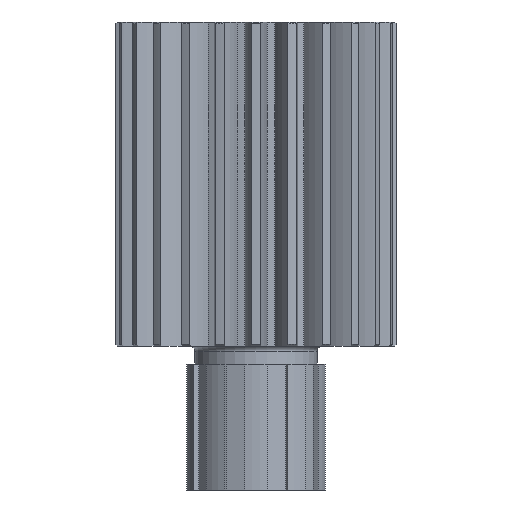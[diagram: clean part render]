
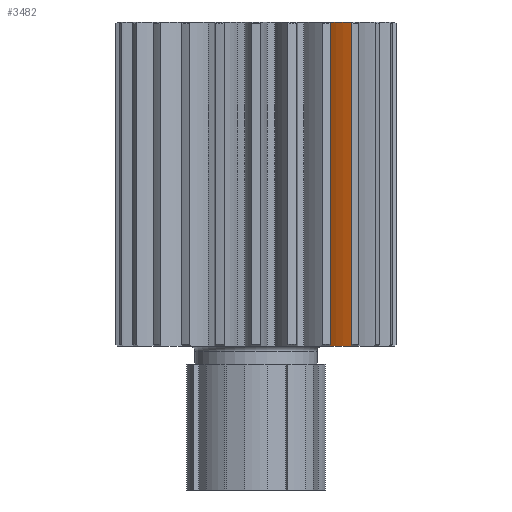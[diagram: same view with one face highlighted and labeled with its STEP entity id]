
A CAD part, left-side view. The second image highlights one B-rep face of the part: STEP entity #3482.
In plain terms, the highlighted cylindrical face has radius 54.371 mm (diameter 108.743 mm), a partial arc.
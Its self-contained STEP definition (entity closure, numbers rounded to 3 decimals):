
#60=B_SPLINE_CURVE_WITH_KNOTS('',3,(#5913,#5914,#5915,#5916),
 .UNSPECIFIED.,.F.,.F.,(4,4),(23.744,23.886),
 .UNSPECIFIED.);
#62=B_SPLINE_CURVE_WITH_KNOTS('',3,(#5926,#5927,#5928,#5929),
 .UNSPECIFIED.,.F.,.F.,(4,4),(1.425,1.567),
 .UNSPECIFIED.);
#196=LINE('',#5924,#396);
#197=LINE('',#5930,#397);
#396=VECTOR('',#4655,10.);
#397=VECTOR('',#4656,10.);
#585=CYLINDRICAL_SURFACE('',#3921,54.371);
#746=FACE_OUTER_BOUND('',#941,.T.);
#941=EDGE_LOOP('',(#2640,#2641,#2642,#2643,#2644,#2645));
#1174=CIRCLE('',#3751,54.371);
#1255=CIRCLE('',#3836,54.371);
#1443=VERTEX_POINT('',#5421);
#1444=VERTEX_POINT('',#5423);
#1526=VERTEX_POINT('',#5604);
#1527=VERTEX_POINT('',#5606);
#1609=VERTEX_POINT('',#5912);
#1611=VERTEX_POINT('',#5925);
#1821=EDGE_CURVE('',#1443,#1444,#1174,.T.);
#1908=EDGE_CURVE('',#1526,#1527,#1255,.T.);
#2021=EDGE_CURVE('',#1609,#1527,#60,.T.);
#2024=EDGE_CURVE('',#1444,#1526,#196,.T.);
#2025=EDGE_CURVE('',#1443,#1611,#62,.T.);
#2026=EDGE_CURVE('',#1609,#1611,#197,.T.);
#2640=ORIENTED_EDGE('',*,*,#2021,.T.);
#2641=ORIENTED_EDGE('',*,*,#1908,.F.);
#2642=ORIENTED_EDGE('',*,*,#2024,.F.);
#2643=ORIENTED_EDGE('',*,*,#1821,.F.);
#2644=ORIENTED_EDGE('',*,*,#2025,.T.);
#2645=ORIENTED_EDGE('',*,*,#2026,.F.);
#3482=ADVANCED_FACE('',(#746),#585,.T.);
#3751=AXIS2_PLACEMENT_3D('',#5424,#4290,#4291);
#3836=AXIS2_PLACEMENT_3D('',#5607,#4463,#4464);
#3921=AXIS2_PLACEMENT_3D('',#5923,#4653,#4654);
#4290=DIRECTION('center_axis',(0.,0.,-1.));
#4291=DIRECTION('ref_axis',(-0.926,0.377,0.));
#4463=DIRECTION('center_axis',(0.,0.,1.));
#4464=DIRECTION('ref_axis',(-0.926,0.377,0.));
#4653=DIRECTION('center_axis',(0.,0.,1.));
#4654=DIRECTION('ref_axis',(-0.926,0.377,0.));
#4655=DIRECTION('',(0.,0.,1.));
#4656=DIRECTION('',(0.,0.,-1.));
#5421=CARTESIAN_POINT('',(-56.501,-52.304,0.));
#5423=CARTESIAN_POINT('',(-49.859,-40.918,0.));
#5424=CARTESIAN_POINT('Origin',(-6.563,-73.807,0.));
#5604=CARTESIAN_POINT('',(-49.859,-40.918,180.));
#5606=CARTESIAN_POINT('',(-56.501,-52.304,180.));
#5607=CARTESIAN_POINT('Origin',(-6.563,-73.807,180.));
#5912=CARTESIAN_POINT('',(-56.925,-53.316,179.));
#5913=CARTESIAN_POINT('Ctrl Pts',(-56.925,-53.316,179.));
#5914=CARTESIAN_POINT('Ctrl Pts',(-56.787,-52.977,179.333));
#5915=CARTESIAN_POINT('Ctrl Pts',(-56.646,-52.639,179.666));
#5916=CARTESIAN_POINT('Ctrl Pts',(-56.501,-52.304,180.));
#5923=CARTESIAN_POINT('Origin',(-6.563,-73.807,0.));
#5924=CARTESIAN_POINT('',(-49.859,-40.918,0.));
#5925=CARTESIAN_POINT('',(-56.925,-53.316,1.));
#5926=CARTESIAN_POINT('Ctrl Pts',(-56.501,-52.304,0.));
#5927=CARTESIAN_POINT('Ctrl Pts',(-56.646,-52.639,0.334));
#5928=CARTESIAN_POINT('Ctrl Pts',(-56.787,-52.977,0.667));
#5929=CARTESIAN_POINT('Ctrl Pts',(-56.925,-53.316,1.));
#5930=CARTESIAN_POINT('',(-56.925,-53.316,0.));
